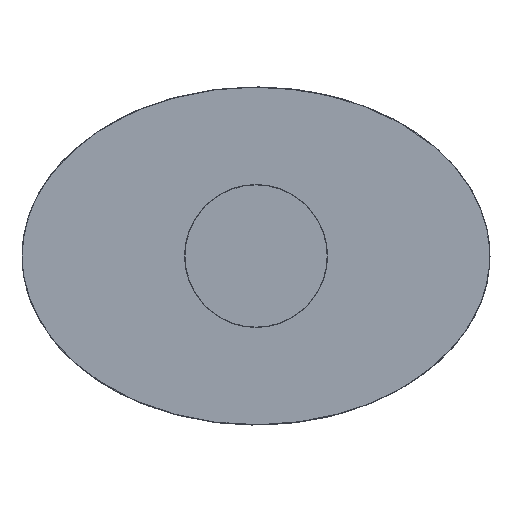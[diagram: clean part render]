
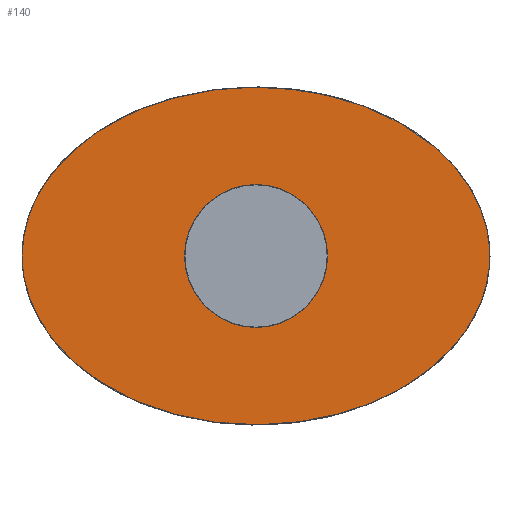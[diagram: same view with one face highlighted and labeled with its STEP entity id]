
A CAD part, front view. The second image highlights one B-rep face of the part: STEP entity #140.
In plain terms, the highlighted planar face has unit normal (0, -1, 0).
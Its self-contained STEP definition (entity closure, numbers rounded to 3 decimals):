
#68=CARTESIAN_POINT('',(0.0,724.,0.0));
#69=DIRECTION('',(0.0,-1.0,0.0));
#70=DIRECTION('',(1.0,0.0,0.0));
#71=AXIS2_PLACEMENT_3D('',#68,#69,#70);
#72=PLANE('',#71);
#73=CARTESIAN_POINT('',(-899.,724.,0.0));
#74=VERTEX_POINT('',#73);
#75=CARTESIAN_POINT('',(-899.001,724.0,0.));
#76=CARTESIAN_POINT('',(-899.001,724.0,29.194));
#77=CARTESIAN_POINT('',(-893.517,724.,87.582));
#78=CARTESIAN_POINT('',(-873.381,724.0,158.344));
#79=CARTESIAN_POINT('',(-850.27,724.,212.129));
#80=CARTESIAN_POINT('',(-822.96,724.,263.717));
#81=CARTESIAN_POINT('',(-781.575,724.0,323.919));
#82=CARTESIAN_POINT('',(-722.345,724.0,388.825));
#83=CARTESIAN_POINT('',(-655.912,724.,445.804));
#84=CARTESIAN_POINT('',(-583.811,724.,495.203));
#85=CARTESIAN_POINT('',(-481.549,724.,551.364));
#86=CARTESIAN_POINT('',(-345.478,724.,603.885));
#87=CARTESIAN_POINT('',(-174.411,724.,640.882));
#88=CARTESIAN_POINT('',(-0.03,724.,653.061));
#89=CARTESIAN_POINT('',(174.477,724.,640.87));
#90=CARTESIAN_POINT('',(345.393,724.0,603.913));
#91=CARTESIAN_POINT('',(490.724,724.0,547.813));
#92=CARTESIAN_POINT('',(608.93,724.,480.588));
#93=CARTESIAN_POINT('',(701.923,724.,409.565));
#94=CARTESIAN_POINT('',(773.633,724.,334.494));
#95=CARTESIAN_POINT('',(825.883,724.,259.809));
#96=CARTESIAN_POINT('',(861.61,724.,190.221));
#97=CARTESIAN_POINT('',(884.484,724.,122.515));
#98=CARTESIAN_POINT('',(896.547,724.,58.585));
#99=CARTESIAN_POINT('',(900.229,724.,0.001));
#100=CARTESIAN_POINT('',(896.544,724.,-58.586));
#101=CARTESIAN_POINT('',(882.081,724.,-135.296));
#102=CARTESIAN_POINT('',(854.094,724.,-208.364));
#103=CARTESIAN_POINT('',(814.829,724.,-275.957));
#104=CARTESIAN_POINT('',(769.155,724.,-339.178));
#105=CARTESIAN_POINT('',(701.923,724.,-409.566));
#106=CARTESIAN_POINT('',(608.926,724.,-480.59));
#107=CARTESIAN_POINT('',(507.62,724.,-538.206));
#108=CARTESIAN_POINT('',(400.13,724.,-583.399));
#109=CARTESIAN_POINT('',(288.479,724.,-616.682));
#110=CARTESIAN_POINT('',(155.093,724.,-642.228));
#111=CARTESIAN_POINT('',(-0.037,724.,-653.065));
#112=CARTESIAN_POINT('',(-193.775,724.0,-639.515));
#113=CARTESIAN_POINT('',(-364.321,724.,-598.426));
#114=CARTESIAN_POINT('',(-525.467,724.,-530.723));
#115=CARTESIAN_POINT('',(-633.787,724.0,-464.779));
#116=CARTESIAN_POINT('',(-722.338,724.,-388.833));
#117=CARTESIAN_POINT('',(-781.579,724.,-323.914));
#118=CARTESIAN_POINT('',(-822.958,724.,-263.719));
#119=CARTESIAN_POINT('',(-850.271,724.,-212.128));
#120=CARTESIAN_POINT('',(-873.381,724.,-158.344));
#121=CARTESIAN_POINT('',(-893.517,724.,-87.582));
#122=CARTESIAN_POINT('',(-899.001,724.0,-29.194));
#123=CARTESIAN_POINT('',(-899.001,724.0,0.));
#124=B_SPLINE_CURVE_WITH_KNOTS('',3,(#75,#76,#77,#78,#79,#80,#81,#82,#83,#84,#85,#86,#87,#88,#89,#90,#91,#92,#93,#94,#95,#96,#97,#98,#99,#100,#101,#102,#103,#104,#105,#106,#107,#108,#109,#110,#111,#112,#113,#114,#115,#116,#117,#118,#119,#120,#121,#122,#123),.UNSPECIFIED.,.T.,.U.,(4,1,1,1,1,1,1,1,1,1,1,1,1,1,1,1,1,1,1,1,1,1,1,1,1,1,1,1,1,1,1,1,1,1,1,1,1,1,1,1,1,1,1,1,1,1,4),(-487.264,-478.563,-469.861,-465.511,-461.16,-452.459,-443.758,-435.057,-426.356,-417.655,-400.252,-382.85,-365.448,-348.046,-330.643,-313.241,-301.639,-290.038,-278.436,-270.702,-262.968,-255.233,-249.433,-243.632,-237.831,-232.03,-220.429,-214.628,-208.827,-197.226,-185.624,-174.023,-162.421,-150.82,-139.218,-121.816,-104.414,-81.211,-69.609,-52.207,-43.506,-34.805,-26.103,-21.753,-17.402,-8.701,0.0),.UNSPECIFIED.);
#125=EDGE_CURVE('',#74,#74,#124,.T.);
#126=ORIENTED_EDGE('',*,*,#125,.F.);
#127=EDGE_LOOP('',(#126));
#128=FACE_OUTER_BOUND('',#127,.T.);
#129=CARTESIAN_POINT('',(249.0,724.,0.));
#130=VERTEX_POINT('',#129);
#131=CARTESIAN_POINT('',(0.0,724.,0.0));
#132=DIRECTION('',(0.0,-1.0,0.0));
#133=DIRECTION('',(-1.0,0.0,0.0));
#134=AXIS2_PLACEMENT_3D('',#131,#132,#133);
#135=CIRCLE('',#134,249.0);
#136=EDGE_CURVE('',#130,#130,#135,.T.);
#137=ORIENTED_EDGE('',*,*,#136,.F.);
#138=EDGE_LOOP('',(#137));
#139=FACE_BOUND('',#138,.T.);
#140=ADVANCED_FACE('',(#128,#139),#72,.T.);
